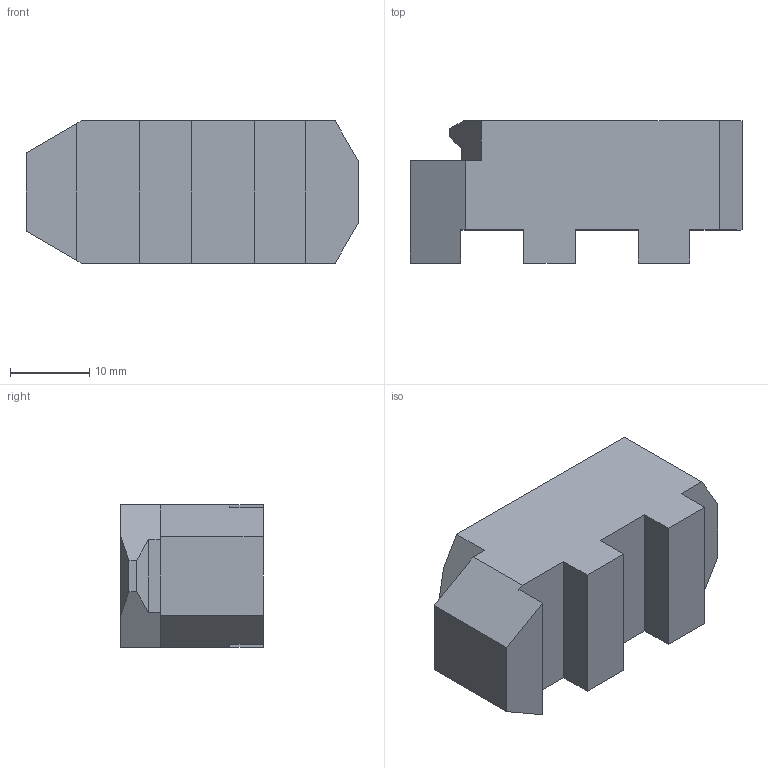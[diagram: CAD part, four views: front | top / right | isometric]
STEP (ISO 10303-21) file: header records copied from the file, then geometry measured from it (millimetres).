
FILE_DESCRIPTION (( 'STEP AP214' ), '1' );
FILE_NAME ('59616-60.STEP', '2022-04-21T11:18:41', ( '' ), ( '' ), 'SwSTEP 2.0', 'SolidWorks 2021', '' );
FILE_SCHEMA (( 'AUTOMOTIVE_DESIGN' ));
Length unit declared in the file: millimetre
Products named in the file (1): 59616-60
Bounding box: 42 x 18 x 18 mm (x, y, z)
Volume: 10715.4 mm3; surface area: 3487.2 mm2
Topology: 1 solids, 1 shells, 27 faces, 75 edges, 50 vertices
Faces by surface type: plane 27
Entity records: 883 total; most frequent: CARTESIAN_POINT 153, ORIENTED_EDGE 150, DIRECTION 131, VECTOR 75, LINE 75, EDGE_CURVE 75, VERTEX_POINT 50, AXIS2_PLACEMENT_3D 28
